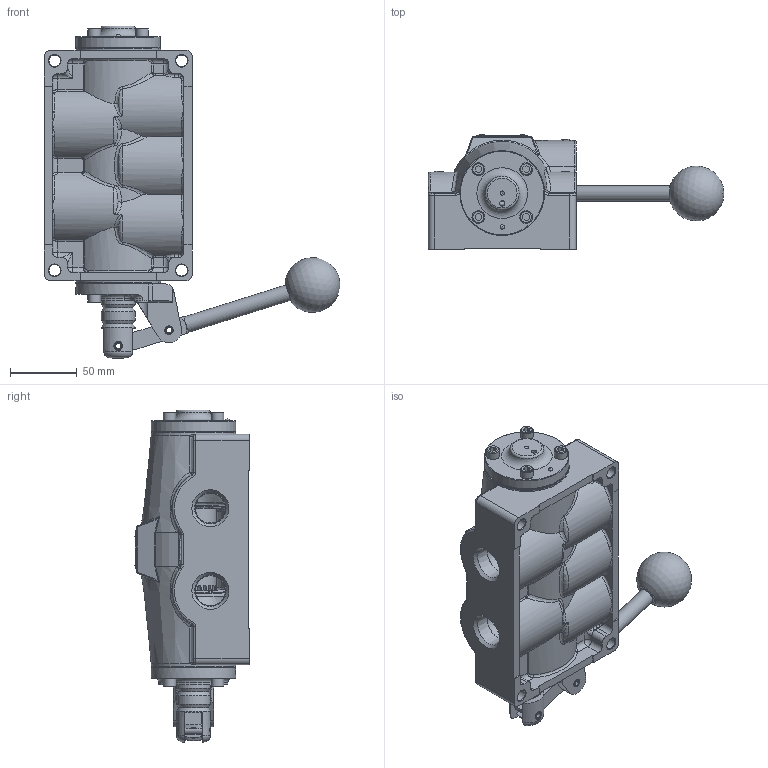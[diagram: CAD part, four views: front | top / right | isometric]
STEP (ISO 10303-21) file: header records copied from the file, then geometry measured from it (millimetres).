
FILE_DESCRIPTION(/* description */ (''),/* implementation_level */ '2;1');
FILE_NAME(/* name */ 'D:\Website Files\stp\Valves\Lever\HO\HO6RT.stp',/* time_stamp */ '2017-05-12T23:27:23-04:00',/* author */ ('RMcKenna'),/* organization */ (''),/* preprocessor_version */ 'ST-DEVELOPER v15.6',/* originating_system */ 'Autodesk Inventor 2015',/* authorisation */ '');
FILE_SCHEMA (('AUTOMOTIVE_DESIGN { 1 0 10303 214 3 1 1 }'));
Products named in the file (1): Part76
Bounding box: 221.89 x 86.28 x 249.13 mm (x, y, z)
Volume: 1099671.3 mm3; surface area: 215908.2 mm2
Topology: 2 solids, 28 shells, 1940 faces, 4626 edges, 2793 vertices
Faces by surface type: plane 598, cylinder 452, bspline 325, cone 298, torus 181, sphere 86
Full cylindrical faces by diameter (mm): 2.07 x2, 2.261 x2, 2.778 x2, 3.175 x1, 3.962 x2, 3.969 x1, 4.978 x8, 6.35 x11, 7.137 x8, 7.144 x8, 8.382 x1, 8.712 x4, 9.525 x9, 10.414 x2, 11.906 x1, 15.081 x1, 17.323 x1, 19.05 x2, 19.253 x2, 22.631 x5, 25.349 x4, 25.4 x1, 27.305 x1, 28.219 x1, 34.29 x1, 34.569 x1, 34.671 x12, 34.925 x2, 35.052 x2, 41.478 x6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
Entity records: 82792 total; most frequent: CARTESIAN_POINT 39898, ORIENTED_EDGE 8508, DIRECTION 7991, EDGE_CURVE 4253, AXIS2_PLACEMENT_3D 3226, VERTEX_POINT 2701, EDGE_LOOP 2329, FACE_OUTER_BOUND 1940
